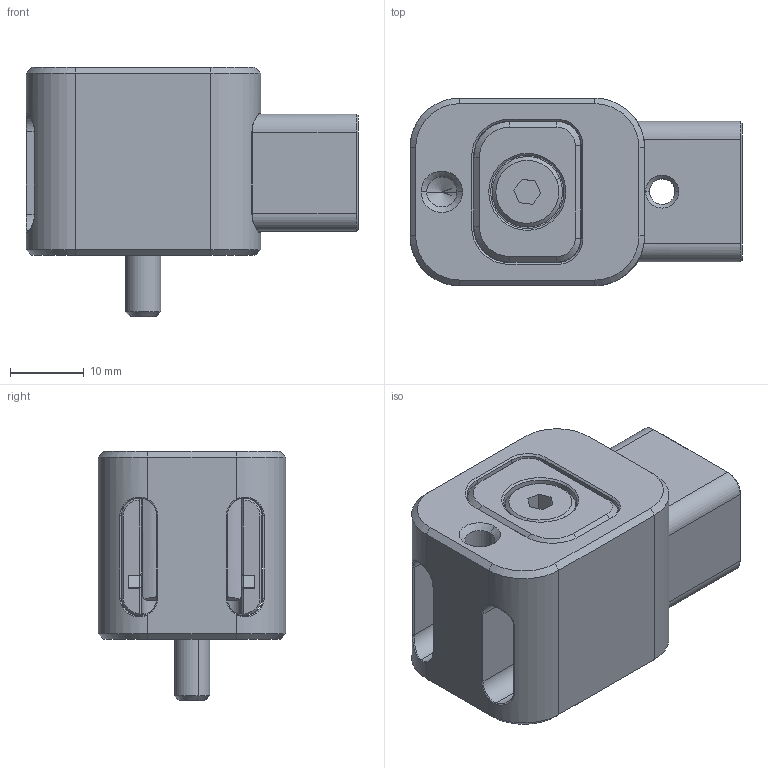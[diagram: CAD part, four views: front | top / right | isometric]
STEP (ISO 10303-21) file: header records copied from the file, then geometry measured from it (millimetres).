
FILE_DESCRIPTION (( 'STEP AP203' ), '1' );
FILE_NAME ('CA-100.STEP', '2011-05-10T19:30:31', ( '' ), ( '' ), 'SwSTEP 2.0', 'SolidWorks 2010', '' );
FILE_SCHEMA (( 'CONFIG_CONTROL_DESIGN' ));
Length unit declared in the file: inch
Products named in the file (5): CA-100; CA-100-S; CA-100-H; CA-100-D; SH-BOLT_25X-75
Assembly tree (4 placements, depth 2):
  CA-100
    CA-100-S
    SH-BOLT_25X-75
    CA-100-D
    CA-100-H
Bounding box: 44.89 x 25.37 x 33.68 mm (x, y, z)
Volume: 17903.4 mm3; surface area: 12813 mm2
Topology: 4 solids, 4 shells, 327 faces, 794 edges, 474 vertices
Faces by surface type: plane 159, cylinder 74, cone 62, torus 16, bspline 16
Entity records: 12242 total; most frequent: CARTESIAN_POINT 4092, DIRECTION 1603, ORIENTED_EDGE 1580, EDGE_CURVE 790, AXIS2_PLACEMENT_3D 549, VECTOR 505, LINE 505, VERTEX_POINT 474
